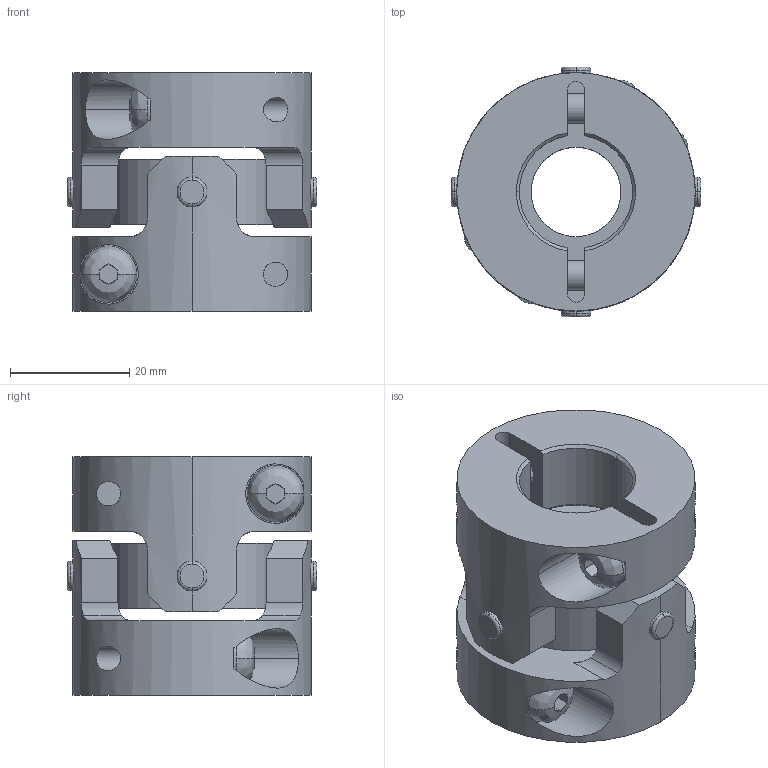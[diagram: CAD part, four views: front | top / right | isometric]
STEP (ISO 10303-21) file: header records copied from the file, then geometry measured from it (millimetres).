
FILE_DESCRIPTION((''),'2;1');
FILE_NAME('UA-40C-19×19.stp','2013-05-22T08:51:57',(''),(''),'AutoCAD STEP 2000i','AutoCAD 2000i',', , ');
FILE_SCHEMA(('CONFIG_CONTROL_DESIGN'));
Length unit declared in the file: millimetre
Products named in the file (8): UA-40C-18×18; 忣兜1; UA-4002-D18-1; BTN-M5; UA-4002-D18; UA-4002-D08-1; UA-4002-D08; UA40-SEN
Assembly tree (10 placements, depth 3):
  UA-40C-18×18
    忣兜1
    UA-4002-D18-1
      BTN-M5
    UA-4002-D18
      BTN-M5
    UA-4002-D08-1
      BTN-M5
    UA-4002-D08
      BTN-M5
    UA40-SEN
Bounding box: 41.81 x 41.81 x 40 mm (x, y, z)
Volume: 31049.9 mm3; surface area: 14679.6 mm2
Topology: 1 solids, 1 shells, 254 faces, 662 edges, 416 vertices
Faces by surface type: plane 126, cylinder 96, cone 16, bspline 8, torus 8
Entity records: 9783 total; most frequent: CARTESIAN_POINT 3355, DIRECTION 1328, ORIENTED_EDGE 1324, EDGE_CURVE 662, AXIS2_PLACEMENT_3D 513, VERTEX_POINT 416, VECTOR 302, LINE 302
